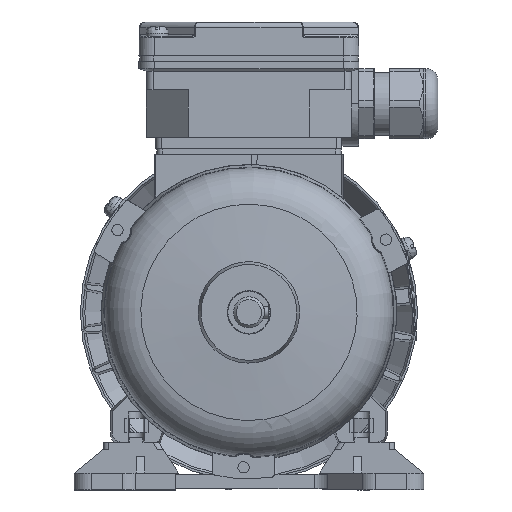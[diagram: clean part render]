
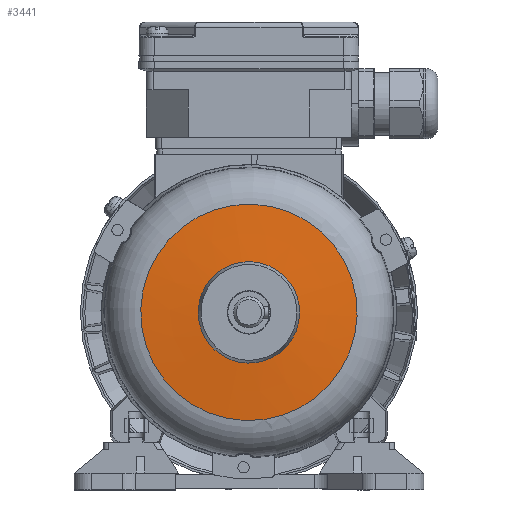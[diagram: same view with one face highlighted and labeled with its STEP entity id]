
A CAD part, left-side view. The second image highlights one B-rep face of the part: STEP entity #3441.
In plain terms, the highlighted conical face has half-angle 85.5 degrees and reference radius 38.379 mm.
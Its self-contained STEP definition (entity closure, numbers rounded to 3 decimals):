
#3441 = ADVANCED_FACE( '', ( #7863, #7864 ), #7865, .T. );
#7863 = FACE_BOUND( '', #16832, .T. );
#7864 = FACE_OUTER_BOUND( '', #16833, .T. );
#7865 = CONICAL_SURFACE( '', #16834, 38.379, 1.492 );
#16832 = EDGE_LOOP( '', ( #32940 ) );
#16833 = EDGE_LOOP( '', ( #32941 ) );
#16834 = AXIS2_PLACEMENT_3D( '', #32942, #32943, #32944 );
#32940 = ORIENTED_EDGE( '', *, *, #48602, .T. );
#32941 = ORIENTED_EDGE( '', *, *, #48603, .F. );
#32942 = CARTESIAN_POINT( '', ( 0., 0., 36.396 ) );
#32943 = DIRECTION( '', ( 0., 0., -1. ) );
#32944 = DIRECTION( '', ( -1., 0., 0. ) );
#48602 = EDGE_CURVE( '', #57251, #57251, #57252, .T. );
#48603 = EDGE_CURVE( '', #57253, #57253, #57254, .T. );
#57251 = VERTEX_POINT( '', #72634 );
#57252 = CIRCLE( '', #72635, 18. );
#57253 = VERTEX_POINT( '', #72636 );
#57254 = CIRCLE( '', #72637, 38.379 );
#72634 = CARTESIAN_POINT( '', ( -18., 0., 38. ) );
#72635 = AXIS2_PLACEMENT_3D( '', #88512, #88513, #88514 );
#72636 = CARTESIAN_POINT( '', ( -38.379, 0., 36.396 ) );
#72637 = AXIS2_PLACEMENT_3D( '', #88515, #88516, #88517 );
#88512 = CARTESIAN_POINT( '', ( 0., 0., 38. ) );
#88513 = DIRECTION( '', ( 0., 0., -1. ) );
#88514 = DIRECTION( '', ( -1., 0., 0. ) );
#88515 = CARTESIAN_POINT( '', ( 0., 0., 36.396 ) );
#88516 = DIRECTION( '', ( 0., 0., -1. ) );
#88517 = DIRECTION( '', ( -1., 0., 0. ) );
